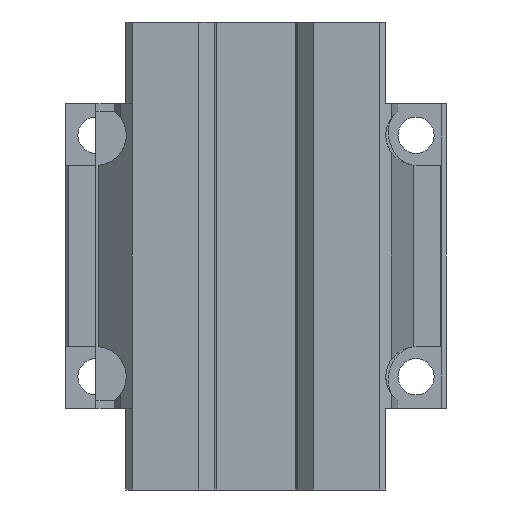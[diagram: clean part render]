
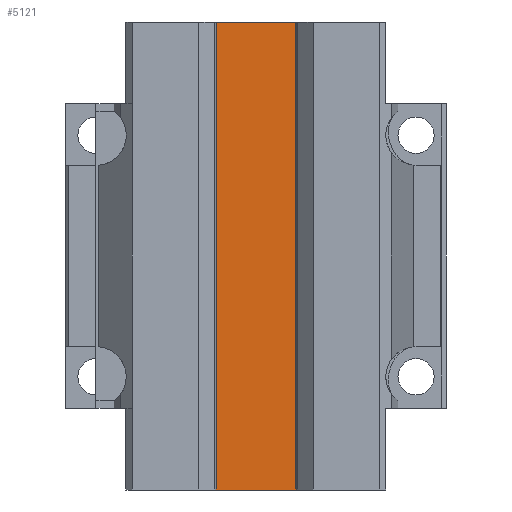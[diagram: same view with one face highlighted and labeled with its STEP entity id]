
A CAD part, front view. The second image highlights one B-rep face of the part: STEP entity #5121.
In plain terms, the highlighted planar face has unit normal (0, -1, 0).
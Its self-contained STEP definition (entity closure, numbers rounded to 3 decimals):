
#155 = EDGE_CURVE ( 'NONE', #5524, #2315, #5232, .T. ) ;
#418 = DIRECTION ( 'NONE',  ( 1., 0., 0. ) ) ;
#645 = AXIS2_PLACEMENT_3D ( 'NONE', #2604, #1380, #5864 ) ;
#1380 = DIRECTION ( 'NONE',  ( 0., 1., 0. ) ) ;
#1410 = CARTESIAN_POINT ( 'NONE',  ( 7.231, 0., -38.75 ) ) ;
#1465 = ORIENTED_EDGE ( 'NONE', *, *, #3937, .F. ) ;
#1818 = VECTOR ( 'NONE', #6572, 1000. ) ;
#2224 = VERTEX_POINT ( 'NONE', #7032 ) ;
#2315 = VERTEX_POINT ( 'NONE', #3283 ) ;
#2329 = CARTESIAN_POINT ( 'NONE',  ( -7.231, 0., -38.75 ) ) ;
#2547 = LINE ( 'NONE', #4793, #5964 ) ;
#2604 = CARTESIAN_POINT ( 'NONE',  ( -7.231, 0., 38.75 ) ) ;
#2757 = VECTOR ( 'NONE', #418, 1000. ) ;
#3145 = FACE_OUTER_BOUND ( 'NONE', #5540, .T. ) ;
#3283 = CARTESIAN_POINT ( 'NONE',  ( -7.231, 0., -38.75 ) ) ;
#3778 = ORIENTED_EDGE ( 'NONE', *, *, #155, .T. ) ;
#3937 = EDGE_CURVE ( 'NONE', #2224, #7111, #4498, .T. ) ;
#4055 = ORIENTED_EDGE ( 'NONE', *, *, #5221, .T. ) ;
#4498 = LINE ( 'NONE', #4694, #7679 ) ;
#4590 = EDGE_CURVE ( 'NONE', #2315, #7111, #4689, .T. ) ;
#4615 = CARTESIAN_POINT ( 'NONE',  ( -7.231, 0., 38.75 ) ) ;
#4689 = LINE ( 'NONE', #2329, #2757 ) ;
#4694 = CARTESIAN_POINT ( 'NONE',  ( 7.231, 0., 38.75 ) ) ;
#4793 = CARTESIAN_POINT ( 'NONE',  ( -21.53, 0., 38.75 ) ) ;
#5121 = ADVANCED_FACE ( 'NONE', ( #3145 ), #5218, .F. ) ;
#5218 = PLANE ( 'NONE',  #645 ) ;
#5221 = EDGE_CURVE ( 'NONE', #2224, #5524, #2547, .T. ) ;
#5232 = LINE ( 'NONE', #5821, #1818 ) ;
#5315 = DIRECTION ( 'NONE',  ( 0., 0., -1. ) ) ;
#5524 = VERTEX_POINT ( 'NONE', #4615 ) ;
#5540 = EDGE_LOOP ( 'NONE', ( #4055, #3778, #5825, #1465 ) ) ;
#5821 = CARTESIAN_POINT ( 'NONE',  ( -7.231, 0., 38.75 ) ) ;
#5825 = ORIENTED_EDGE ( 'NONE', *, *, #4590, .T. ) ;
#5864 = DIRECTION ( 'NONE',  ( -1., 0., 0. ) ) ;
#5964 = VECTOR ( 'NONE', #7303, 1000. ) ;
#6572 = DIRECTION ( 'NONE',  ( 0., 0., -1. ) ) ;
#7032 = CARTESIAN_POINT ( 'NONE',  ( 7.231, 0., 38.75 ) ) ;
#7111 = VERTEX_POINT ( 'NONE', #1410 ) ;
#7303 = DIRECTION ( 'NONE',  ( -1., 0., 0. ) ) ;
#7679 = VECTOR ( 'NONE', #5315, 1000. ) ;
